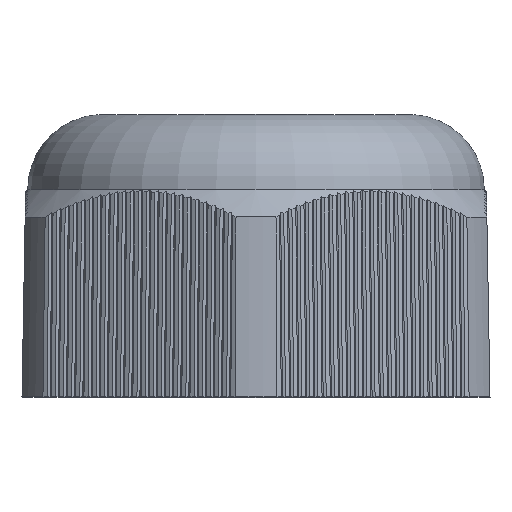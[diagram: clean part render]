
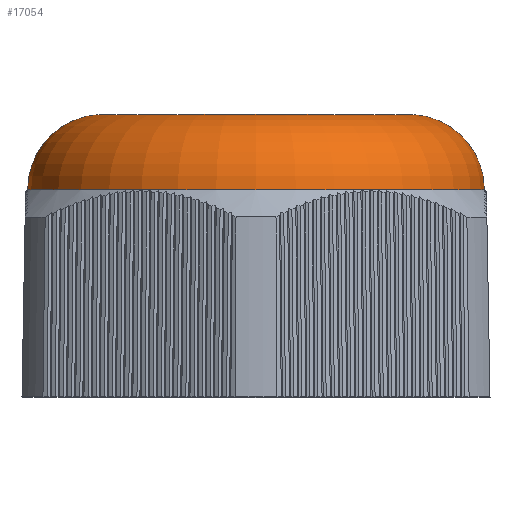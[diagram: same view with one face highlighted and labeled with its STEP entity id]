
A CAD part, top view. The second image highlights one B-rep face of the part: STEP entity #17054.
In plain terms, the highlighted toroidal (fillet/blend) face has major radius 16.25 mm and minor radius 8 mm.
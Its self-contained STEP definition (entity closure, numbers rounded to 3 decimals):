
#401 = DIRECTION ( 'NONE',  ( 0., 0., -1. ) ) ;
#2236 = CIRCLE ( 'NONE', #4165, 16.783 ) ;
#2467 = CARTESIAN_POINT ( 'NONE',  ( 0., 22., 0. ) ) ;
#3787 = ORIENTED_EDGE ( 'NONE', *, *, #4558, .F. ) ;
#4030 = DIRECTION ( 'NONE',  ( 0., -1., 0. ) ) ;
#4165 = AXIS2_PLACEMENT_3D ( 'NONE', #10846, #4365, #401 ) ;
#4365 = DIRECTION ( 'NONE',  ( 0., -1., 0. ) ) ;
#4558 = EDGE_CURVE ( 'NONE', #15185, #15185, #14728, .T. ) ;
#5101 = AXIS2_PLACEMENT_3D ( 'NONE', #10626, #15901, #9321 ) ;
#5264 = FACE_OUTER_BOUND ( 'NONE', #11496, .T. ) ;
#7290 = AXIS2_PLACEMENT_3D ( 'NONE', #2467, #4030, #7739 ) ;
#7739 = DIRECTION ( 'NONE',  ( 0., 0., -1. ) ) ;
#8327 = EDGE_CURVE ( 'NONE', #8380, #8380, #2236, .T. ) ;
#8380 = VERTEX_POINT ( 'NONE', #12437 ) ;
#8576 = EDGE_LOOP ( 'NONE', ( #8907 ) ) ;
#8907 = ORIENTED_EDGE ( 'NONE', *, *, #8327, .T. ) ;
#9321 = DIRECTION ( 'NONE',  ( 0., 0., -1. ) ) ;
#10535 = FACE_OUTER_BOUND ( 'NONE', #8576, .T. ) ;
#10626 = CARTESIAN_POINT ( 'NONE',  ( 0., 22., 0. ) ) ;
#10846 = CARTESIAN_POINT ( 'NONE',  ( 0., 29.982, 0. ) ) ;
#11496 = EDGE_LOOP ( 'NONE', ( #3787 ) ) ;
#12437 = CARTESIAN_POINT ( 'NONE',  ( 0., 29.982, -16.783 ) ) ;
#14728 = CIRCLE ( 'NONE', #7290, 24.25 ) ;
#14931 = CARTESIAN_POINT ( 'NONE',  ( 0., 22., -24.25 ) ) ;
#15185 = VERTEX_POINT ( 'NONE', #14931 ) ;
#15901 = DIRECTION ( 'NONE',  ( 0., -1., 0. ) ) ;
#16421 = TOROIDAL_SURFACE ( 'NONE', #5101, 16.25, 8. ) ;
#17054 = ADVANCED_FACE ( 'NONE', ( #10535, #5264 ), #16421, .T. ) ;
